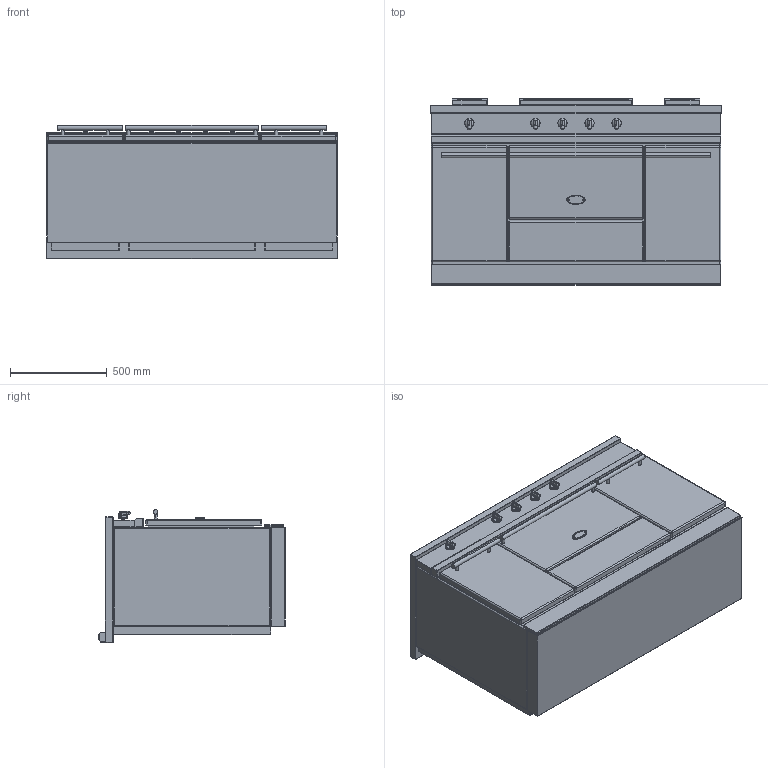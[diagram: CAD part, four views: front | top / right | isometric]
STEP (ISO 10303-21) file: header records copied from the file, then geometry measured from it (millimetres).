
FILE_DESCRIPTION((''),'2;1');
FILE_NAME('LMVI1532_ASM','2022-04-13T11:30:50',('stagiaire'),(''),'CREO PARAMETRIC BY PTC INC, 2021424','CREO PARAMETRIC BY PTC INC, 2021424','');
FILE_SCHEMA(('AP203_CONFIGURATION_CONTROLLED_3D_DESIGN_OF_MECHANICAL_PARTS_AND_ASSEMBLIES_MIM_LF { 1 0 10303 403 2 1 2 }'));
Products named in the file (13): BASE_EXPORT_FONTENAY_LMVI1531; 65049009; 65650001; 65064012; 19150009; 88064012_ASM; BASE_EXPORT_CITEAUX_LMVI1532_ASM; TABLE_1505_INDUCTION_ET_VTR; 65052012; CHEMINEE_2020_LG182_EXPORT_STEP; CHEMINEE_2020_LG582_EXPORT_STEP; TABLE_1505_INDUCTION_ASM; LMVI1532_ASM
Assembly tree (17 placements, depth 4):
  LMVI1532_ASM
    BASE_EXPORT_CITEAUX_LMVI1532_ASM
      BASE_EXPORT_FONTENAY_LMVI1531
      65049009
      65650001
      88064012_ASM  x5
        65064012
        19150009
    TABLE_1505_INDUCTION_ASM
      TABLE_1505_INDUCTION_ET_VTR
      65052012
      CHEMINEE_2020_LG182_EXPORT_STEP  x2
      CHEMINEE_2020_LG582_EXPORT_STEP
Bounding box: 1505 x 963 x 688.5 mm (x, y, z)
Volume: 553538699 mm3; surface area: 13230534.7 mm2
Topology: 22 solids, 22 shells, 2817 faces, 8142 edges, 5203 vertices
Faces by surface type: plane 1267, cylinder 1058, sphere 208, bspline 189, torus 67, cone 26, extrusion 2
Entity records: 85254 total; most frequent: CARTESIAN_POINT 21427, ORIENTED_EDGE 11420, DIRECTION 11232, EDGE_CURVE 5710, VECTOR 4282, LINE 4280, VERTEX_POINT 3665, AXIS2_PLACEMENT_3D 3457
